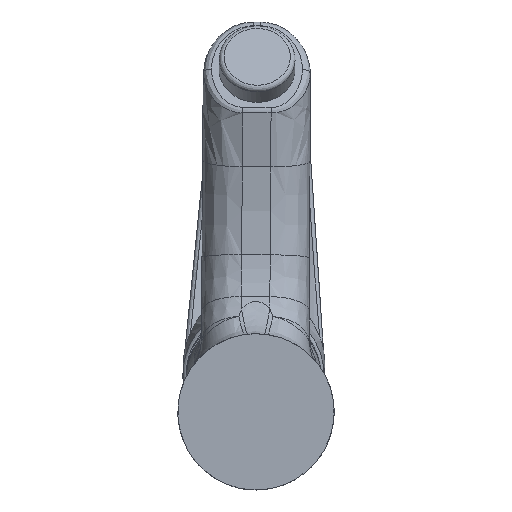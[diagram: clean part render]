
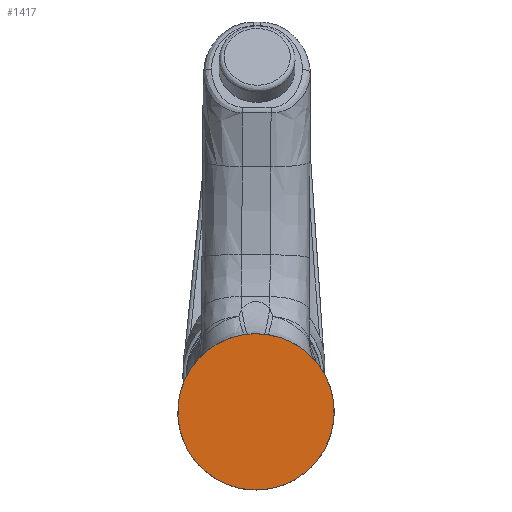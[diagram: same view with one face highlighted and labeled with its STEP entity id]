
A CAD part, front view. The second image highlights one B-rep face of the part: STEP entity #1417.
In plain terms, the highlighted planar face has unit normal (0, -1, 0).
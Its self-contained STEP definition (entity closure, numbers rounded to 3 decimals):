
#26=PLANE('',#1509);
#220=FACE_OUTER_BOUND('',#314,.T.);
#314=EDGE_LOOP('',(#1168));
#458=B_SPLINE_CURVE_WITH_KNOTS('',3,(#15624,#15625,#15626,#15627,#15628,
#15629,#15630,#15631,#15632,#15633,#15634,#15635,#15636,#15637,#15638,#15639,
#15640,#15641,#15642,#15643,#15644,#15645,#15646,#15647,#15648,#15649,#15650,
#15651,#15652,#15653,#15654,#15655,#15656,#15657,#15658,#15659,#15660,#15661,
#15662,#15663,#15664,#15665,#15666,#15667,#15668,#15669,#15670,#15671,#15672,
#15673,#15674,#15675,#15676,#15677,#15678,#15679,#15680,#15681,#15682,#15683,
#15684,#15685,#15686,#15687,#15688,#15689),.UNSPECIFIED.,.T.,.F.,(4,2,2,
2,2,2,2,2,2,2,2,2,2,2,2,2,2,2,2,2,2,2,2,2,2,2,2,2,2,2,2,2,4),(0.,0.031,
0.063,0.094,0.125,0.156,0.188,0.219,0.25,0.281,
0.313,0.344,0.375,0.406,0.438,0.469,
0.5,0.531,0.562,0.594,0.625,0.656,
0.688,0.719,0.75,0.781,0.813,0.844,
0.875,0.906,0.937,0.969,1.),
 .UNSPECIFIED.);
#621=VERTEX_POINT('',#15623);
#806=EDGE_CURVE('',#621,#621,#458,.T.);
#1168=ORIENTED_EDGE('',*,*,#806,.F.);
#1417=ADVANCED_FACE('',(#220),#26,.T.);
#1509=AXIS2_PLACEMENT_3D('',#18992,#1641,#1642);
#1641=DIRECTION('center_axis',(0.,-1.,0.));
#1642=DIRECTION('ref_axis',(-1.,0.,0.));
#15623=CARTESIAN_POINT('',(22.274,0.,10.791));
#15624=CARTESIAN_POINT('Ctrl Pts',(22.274,0.,
10.791));
#15625=CARTESIAN_POINT('Ctrl Pts',(22.98,0.,
9.333));
#15626=CARTESIAN_POINT('Ctrl Pts',(23.543,0.,
7.806));
#15627=CARTESIAN_POINT('Ctrl Pts',(24.359,0.,
4.671));
#15628=CARTESIAN_POINT('Ctrl Pts',(24.613,0.,
3.063));
#15629=CARTESIAN_POINT('Ctrl Pts',(24.802,0.,
-0.171));
#15630=CARTESIAN_POINT('Ctrl Pts',(24.738,0.,
-1.798));
#15631=CARTESIAN_POINT('Ctrl Pts',(24.292,0.,
-5.007));
#15632=CARTESIAN_POINT('Ctrl Pts',(23.912,0.,
-6.589));
#15633=CARTESIAN_POINT('Ctrl Pts',(22.849,0.,
-9.65));
#15634=CARTESIAN_POINT('Ctrl Pts',(22.167,0.,
-11.128));
#15635=CARTESIAN_POINT('Ctrl Pts',(20.527,0.,
-13.922));
#15636=CARTESIAN_POINT('Ctrl Pts',(19.57,0.,
-15.238));
#15637=CARTESIAN_POINT('Ctrl Pts',(17.417,0.,
-17.659));
#15638=CARTESIAN_POINT('Ctrl Pts',(16.221,0.,
-18.763));
#15639=CARTESIAN_POINT('Ctrl Pts',(13.637,0.,
-20.718));
#15640=CARTESIAN_POINT('Ctrl Pts',(12.249,0.,
-21.567));
#15641=CARTESIAN_POINT('Ctrl Pts',(9.333,0.,
-22.98));
#15642=CARTESIAN_POINT('Ctrl Pts',(7.806,0.,
-23.543));
#15643=CARTESIAN_POINT('Ctrl Pts',(4.671,0.,
-24.359));
#15644=CARTESIAN_POINT('Ctrl Pts',(3.063,0.,
-24.613));
#15645=CARTESIAN_POINT('Ctrl Pts',(-0.171,0.,
-24.802));
#15646=CARTESIAN_POINT('Ctrl Pts',(-1.798,0.,
-24.738));
#15647=CARTESIAN_POINT('Ctrl Pts',(-5.007,0.,
-24.292));
#15648=CARTESIAN_POINT('Ctrl Pts',(-6.589,0.,
-23.912));
#15649=CARTESIAN_POINT('Ctrl Pts',(-9.65,0.,
-22.849));
#15650=CARTESIAN_POINT('Ctrl Pts',(-11.128,0.,
-22.167));
#15651=CARTESIAN_POINT('Ctrl Pts',(-13.922,0.,
-20.527));
#15652=CARTESIAN_POINT('Ctrl Pts',(-15.238,0.,
-19.57));
#15653=CARTESIAN_POINT('Ctrl Pts',(-17.659,0.,
-17.417));
#15654=CARTESIAN_POINT('Ctrl Pts',(-18.763,0.,
-16.221));
#15655=CARTESIAN_POINT('Ctrl Pts',(-20.718,0.,
-13.637));
#15656=CARTESIAN_POINT('Ctrl Pts',(-21.567,0.,
-12.249));
#15657=CARTESIAN_POINT('Ctrl Pts',(-22.98,0.,
-9.333));
#15658=CARTESIAN_POINT('Ctrl Pts',(-23.543,0.,
-7.806));
#15659=CARTESIAN_POINT('Ctrl Pts',(-24.359,0.,
-4.671));
#15660=CARTESIAN_POINT('Ctrl Pts',(-24.613,0.,
-3.063));
#15661=CARTESIAN_POINT('Ctrl Pts',(-24.802,0.,
0.171));
#15662=CARTESIAN_POINT('Ctrl Pts',(-24.738,0.,
1.798));
#15663=CARTESIAN_POINT('Ctrl Pts',(-24.292,0.,
5.007));
#15664=CARTESIAN_POINT('Ctrl Pts',(-23.912,0.,
6.589));
#15665=CARTESIAN_POINT('Ctrl Pts',(-22.849,0.,
9.65));
#15666=CARTESIAN_POINT('Ctrl Pts',(-22.167,0.,
11.128));
#15667=CARTESIAN_POINT('Ctrl Pts',(-20.527,0.,
13.922));
#15668=CARTESIAN_POINT('Ctrl Pts',(-19.57,0.,
15.238));
#15669=CARTESIAN_POINT('Ctrl Pts',(-17.417,0.,
17.659));
#15670=CARTESIAN_POINT('Ctrl Pts',(-16.221,0.,
18.763));
#15671=CARTESIAN_POINT('Ctrl Pts',(-13.637,0.,
20.718));
#15672=CARTESIAN_POINT('Ctrl Pts',(-12.249,0.,
21.567));
#15673=CARTESIAN_POINT('Ctrl Pts',(-9.333,0.,
22.98));
#15674=CARTESIAN_POINT('Ctrl Pts',(-7.806,0.,
23.543));
#15675=CARTESIAN_POINT('Ctrl Pts',(-4.671,0.,
24.359));
#15676=CARTESIAN_POINT('Ctrl Pts',(-3.063,0.,
24.613));
#15677=CARTESIAN_POINT('Ctrl Pts',(0.171,0.,
24.802));
#15678=CARTESIAN_POINT('Ctrl Pts',(1.798,0.,
24.738));
#15679=CARTESIAN_POINT('Ctrl Pts',(5.007,0.,
24.292));
#15680=CARTESIAN_POINT('Ctrl Pts',(6.589,0.,
23.912));
#15681=CARTESIAN_POINT('Ctrl Pts',(9.65,0.,
22.849));
#15682=CARTESIAN_POINT('Ctrl Pts',(11.128,0.,
22.167));
#15683=CARTESIAN_POINT('Ctrl Pts',(13.922,0.,
20.527));
#15684=CARTESIAN_POINT('Ctrl Pts',(15.238,0.,
19.57));
#15685=CARTESIAN_POINT('Ctrl Pts',(17.659,0.,
17.417));
#15686=CARTESIAN_POINT('Ctrl Pts',(18.763,0.,
16.221));
#15687=CARTESIAN_POINT('Ctrl Pts',(20.718,0.,
13.637));
#15688=CARTESIAN_POINT('Ctrl Pts',(21.567,0.,
12.249));
#15689=CARTESIAN_POINT('Ctrl Pts',(22.274,0.,
10.791));
#18992=CARTESIAN_POINT('Origin',(10.92,0.,
-22.541));
